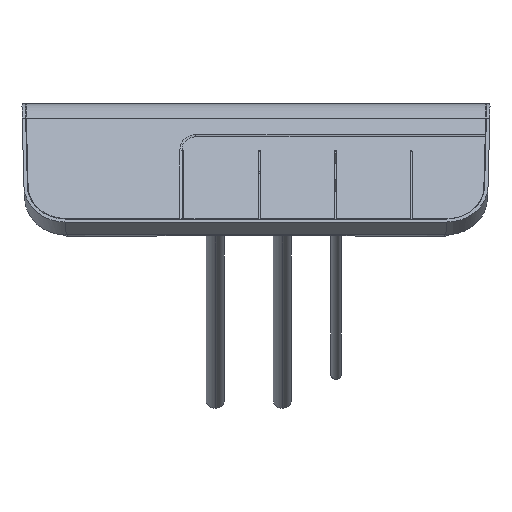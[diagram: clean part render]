
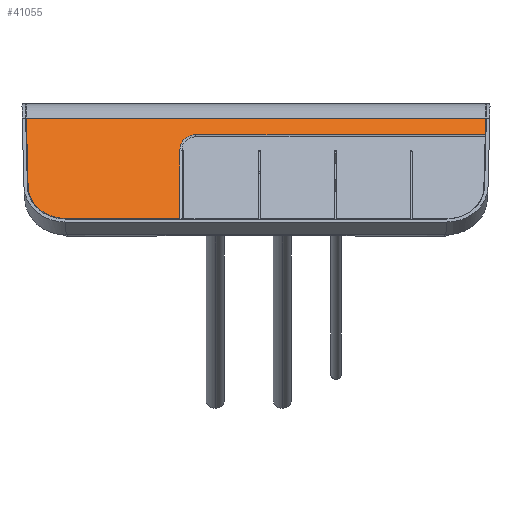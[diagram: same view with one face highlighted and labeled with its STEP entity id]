
A CAD part, top view. The second image highlights one B-rep face of the part: STEP entity #41055.
In plain terms, the highlighted planar face has unit normal (0, 0.469, 0.883).
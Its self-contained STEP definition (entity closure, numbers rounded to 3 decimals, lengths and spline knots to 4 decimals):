
#362 = CARTESIAN_POINT ( 'NONE',  ( 2.6304, 0.0198, -0.0105 ) ) ;
#494 = VERTEX_POINT ( 'NONE', #24176 ) ;
#568 = VECTOR ( 'NONE', #12328, 39.3701 ) ;
#760 = CARTESIAN_POINT ( 'NONE',  ( -0.8687, -0.5102, 0.2713 ) ) ;
#1361 = CARTESIAN_POINT ( 'NONE',  ( -0.6868, -0.3561, 0.1893 ) ) ;
#2616 = PLANE ( 'NONE',  #56531 ) ;
#2809 = EDGE_CURVE ( 'NONE', #42059, #494, #39973, .T. ) ;
#4134 = DIRECTION ( 'NONE',  ( -0.023, 0.883, -0.469 ) ) ;
#4352 = VECTOR ( 'NONE', #4134, 39.3701 ) ;
#4508 = LINE ( 'NONE', #32740, #10283 ) ;
#4926 = LINE ( 'NONE', #49485, #568 ) ;
#5049 = DIRECTION ( 'NONE',  ( -1., 0., 0. ) ) ;
#5816 = CARTESIAN_POINT ( 'NONE',  ( -0.8691, -0.5163, 0.2745 ) ) ;
#6016 = CARTESIAN_POINT ( 'NONE',  ( -0.8683, -0.5065, 0.2693 ) ) ;
#7606 = DIRECTION ( 'NONE',  ( 0., 0.883, -0.469 ) ) ;
#7952 = ORIENTED_EDGE ( 'NONE', *, *, #43909, .F. ) ;
#8499 = CARTESIAN_POINT ( 'NONE',  ( -2.6056, -0.9472, 0.5036 ) ) ;
#9344 = EDGE_CURVE ( 'NONE', #12563, #40264, #4508, .T. ) ;
#10132 = EDGE_CURVE ( 'NONE', #15614, #42059, #19594, .T. ) ;
#10283 = VECTOR ( 'NONE', #5049, 39.3701 ) ;
#10463 = CARTESIAN_POINT ( 'NONE',  ( -0.7764, -0.3739, 0.1988 ) ) ;
#12328 = DIRECTION ( 'NONE',  ( -1., 0., 0. ) ) ;
#12496 = CARTESIAN_POINT ( 'NONE',  ( -0.8695, -1.314, 0.6987 ) ) ;
#12563 = VERTEX_POINT ( 'NONE', #31694 ) ;
#12875 = VECTOR ( 'NONE', #7606, 39.3701 ) ;
#14029 = CARTESIAN_POINT ( 'NONE',  ( -2.6304, 0.0198, -0.0105 ) ) ;
#15614 = VERTEX_POINT ( 'NONE', #36274 ) ;
#16499 = ORIENTED_EDGE ( 'NONE', *, *, #38514, .T. ) ;
#18407 = ORIENTED_EDGE ( 'NONE', *, *, #9344, .F. ) ;
#19594 = LINE ( 'NONE', #20539, #39120 ) ;
#20539 = CARTESIAN_POINT ( 'NONE',  ( -3.622, -0.3561, 0.1893 ) ) ;
#21427 = DIRECTION ( 'NONE',  ( 0., 0.469, 0.883 ) ) ;
#23593 = VERTEX_POINT ( 'NONE', #53305 ) ;
#24176 = CARTESIAN_POINT ( 'NONE',  ( -0.8695, -0.5299, 0.2817 ) ) ;
#26644 = ORIENTED_EDGE ( 'NONE', *, *, #32948, .T. ) ;
#28099 = LINE ( 'NONE', #362, #45406 ) ;
#28282 = CARTESIAN_POINT ( 'NONE',  ( -0.8694, -0.523, 0.2781 ) ) ;
#29159 = VERTEX_POINT ( 'NONE', #47037 ) ;
#30078 = FACE_OUTER_BOUND ( 'NONE', #43484, .T. ) ;
#31393 = CARTESIAN_POINT ( 'NONE',  ( -2.6001, -1.1631, 0.6184 ) ) ;
#31694 = CARTESIAN_POINT ( 'NONE',  ( -0.8695, -1.314, 0.6987 ) ) ;
#32740 = CARTESIAN_POINT ( 'NONE',  ( -3.622, -1.314, 0.6987 ) ) ;
#32909 = CARTESIAN_POINT ( 'NONE',  ( -2.6056, -0.9472, 0.5036 ) ) ;
#32912 = CARTESIAN_POINT ( 'NONE',  ( -0.8158, -0.3952, 0.2101 ) ) ;
#32948 = EDGE_CURVE ( 'NONE', #23593, #29159, #4926, .T. ) ;
#33167 = EDGE_CURVE ( 'NONE', #15614, #23593, #28099, .T. ) ;
#33317 = CARTESIAN_POINT ( 'NONE',  ( -0.8618, -0.4695, 0.2496 ) ) ;
#33616 = CARTESIAN_POINT ( 'NONE',  ( -0.6868, -0.3561, 0.1893 ) ) ;
#33721 = CARTESIAN_POINT ( 'NONE',  ( -0.734, -0.3596, 0.1912 ) ) ;
#34009 = EDGE_CURVE ( 'NONE', #12563, #494, #48954, .T. ) ;
#34382 = ORIENTED_EDGE ( 'NONE', *, *, #10132, .F. ) ;
#35871 = ORIENTED_EDGE ( 'NONE', *, *, #33167, .T. ) ;
#36014 = CARTESIAN_POINT ( 'NONE',  ( -2.181, -1.314, 0.6987 ) ) ;
#36064 = CARTESIAN_POINT ( 'NONE',  ( -2.4254, -1.314, 0.6987 ) ) ;
#36274 = CARTESIAN_POINT ( 'NONE',  ( 2.6208, -0.3561, 0.1893 ) ) ;
#36644 = CARTESIAN_POINT ( 'NONE',  ( -2.181, -1.314, 0.6987 ) ) ;
#38339 = ORIENTED_EDGE ( 'NONE', *, *, #2809, .F. ) ;
#38370 = CARTESIAN_POINT ( 'NONE',  ( -0.8695, -0.5299, 0.2817 ) ) ;
#38514 = EDGE_CURVE ( 'NONE', #53439, #40264, #42490, .T. ) ;
#39120 = VECTOR ( 'NONE', #53030, 39.3701 ) ;
#39970 = CARTESIAN_POINT ( 'NONE',  ( -3.622, 0., 0. ) ) ;
#39973 = B_SPLINE_CURVE_WITH_KNOTS ( 'NONE', 3,
 ( #1361, #46673, #33721, #10463, #32912, #46865, #33317, #56313, #6016, #760, #5816, #28282, #51286, #38370 ),
 .UNSPECIFIED., .F., .F.,
 ( 4, 1, 1, 1, 1, 1, 2, 1, 1, 1, 4 ),
 ( 0., 0.2301, 0.25, 0.4602, 0.6902, 0.75, 0.9203, 0.9402, 0.9602, 0.9801, 1. ),
 .UNSPECIFIED. ) ;
#40264 = VERTEX_POINT ( 'NONE', #36014 ) ;
#40850 = ORIENTED_EDGE ( 'NONE', *, *, #34009, .T. ) ;
#41055 = ADVANCED_FACE ( 'NONE', ( #30078 ), #2616, .T. ) ;
#42059 = VERTEX_POINT ( 'NONE', #33616 ) ;
#42490 =( BOUNDED_CURVE ( )  B_SPLINE_CURVE ( 3, ( #8499, #31393, #36064, #36644 ),
 .UNSPECIFIED., .F., .F. ) 
 B_SPLINE_CURVE_WITH_KNOTS ( ( 4, 4 ),
 ( 5.2647, 6.8113 ),
 .UNSPECIFIED. ) 
 CURVE ( )  GEOMETRIC_REPRESENTATION_ITEM ( )  RATIONAL_B_SPLINE_CURVE ( ( 1., 0.81, 0.81, 1. ) ) 
 REPRESENTATION_ITEM ( '' )  );
#43484 = EDGE_LOOP ( 'NONE', ( #7952, #16499, #18407, #40850, #38339, #34382, #35871, #26644 ) ) ;
#43909 = EDGE_CURVE ( 'NONE', #53439, #29159, #52060, .T. ) ;
#45406 = VECTOR ( 'NONE', #46661, 39.3701 ) ;
#46661 = DIRECTION ( 'NONE',  ( 0.023, 0.883, -0.469 ) ) ;
#46673 = CARTESIAN_POINT ( 'NONE',  ( -0.7094, -0.3561, 0.1893 ) ) ;
#46865 = CARTESIAN_POINT ( 'NONE',  ( -0.845, -0.4318, 0.2296 ) ) ;
#47037 = CARTESIAN_POINT ( 'NONE',  ( -2.6256, -0.1671, 0.0888 ) ) ;
#48704 = DIRECTION ( 'NONE',  ( 0., -0.883, 0.469 ) ) ;
#48954 = LINE ( 'NONE', #12496, #12875 ) ;
#49485 = CARTESIAN_POINT ( 'NONE',  ( -3.622, -0.1671, 0.0888 ) ) ;
#51286 = CARTESIAN_POINT ( 'NONE',  ( -0.8695, -0.5276, 0.2805 ) ) ;
#52060 = LINE ( 'NONE', #14029, #4352 ) ;
#53030 = DIRECTION ( 'NONE',  ( -1., 0., 0. ) ) ;
#53305 = CARTESIAN_POINT ( 'NONE',  ( 2.6256, -0.1671, 0.0888 ) ) ;
#53439 = VERTEX_POINT ( 'NONE', #32909 ) ;
#56313 = CARTESIAN_POINT ( 'NONE',  ( -0.8664, -0.4896, 0.2603 ) ) ;
#56531 = AXIS2_PLACEMENT_3D ( 'NONE', #39970, #21427, #48704 ) ;
